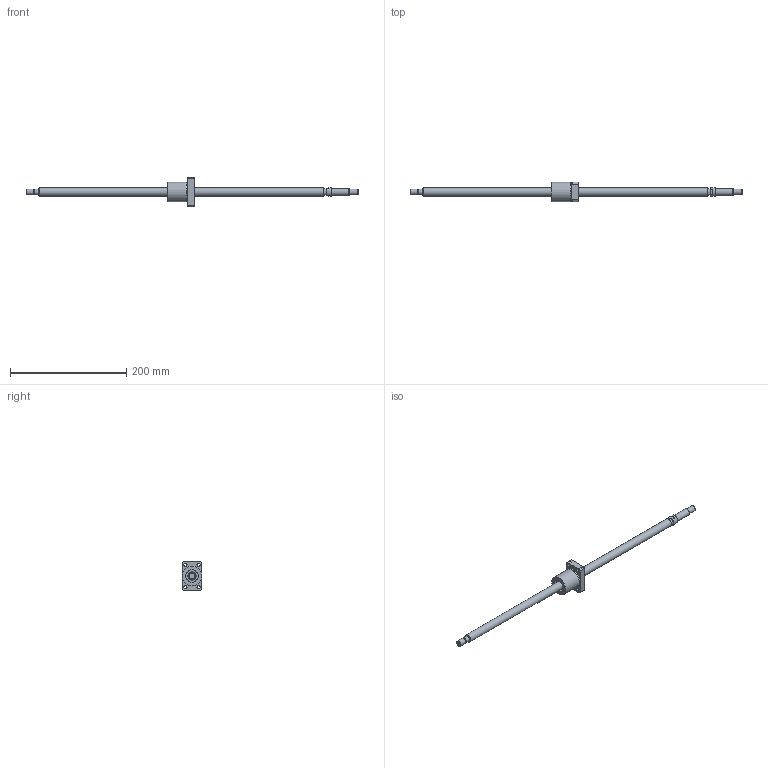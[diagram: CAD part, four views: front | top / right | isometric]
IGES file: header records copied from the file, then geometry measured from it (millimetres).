
Start section: Data from Parasolid IGES Translator 26.0.171, Copyright(c) 2006 Siemens PLM Software. All Rights Reserved.
Global section: file name: BNK1408-2.5RRG0+571LC5Y(267.50).igs; native system: By Siemens PLM Incorporated; preprocessor: XPlus GENERIC/IGES 26.0.171; author: Noname; organization: Noname; date: 20240709.091736; units: millimetre
Bounding box: 571 x 34 x 50 mm (x, y, z)
Surface area: 36760.2 mm2 (no closed solid volume)
Topology: 0 solids, 0 shells, 74 faces, 325 edges, 281 vertices
Faces by surface type: revolution 46, extrusion 28
